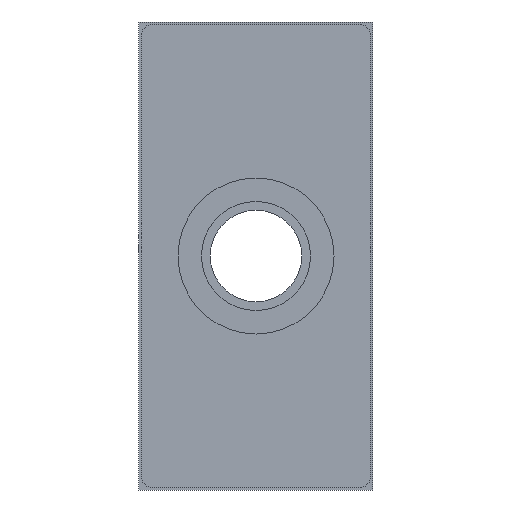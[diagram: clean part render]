
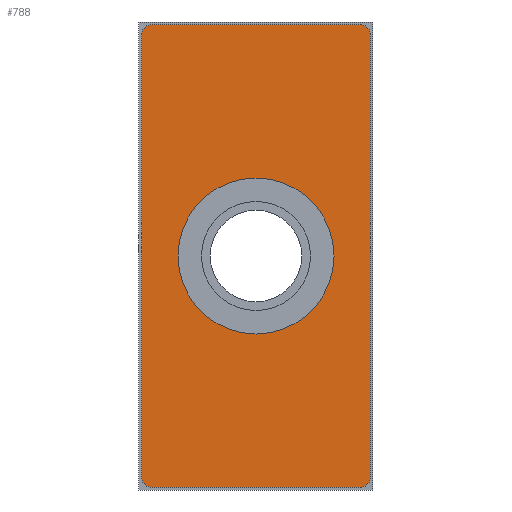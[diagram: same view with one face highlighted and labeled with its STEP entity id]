
A CAD part, front view. The second image highlights one B-rep face of the part: STEP entity #788.
In plain terms, the highlighted planar face has unit normal (0, -1, 0).
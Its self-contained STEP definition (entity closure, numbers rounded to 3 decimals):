
#587=CARTESIAN_POINT('',(0.,0.,0.));
#588=DIRECTION('',(0.,1.,0.));
#589=DIRECTION('',(1.,0.,0.));
#590=AXIS2_PLACEMENT_3D('',#587,#588,#589);
#592=CARTESIAN_POINT('',(0.,0.,0.));
#593=DIRECTION('',(0.,1.,0.));
#594=DIRECTION('',(-1.,0.,0.));
#595=AXIS2_PLACEMENT_3D('',#592,#593,#594);
#597=DIRECTION('',(0.,0.,-1.));
#598=VECTOR('',#597,85.);
#599=CARTESIAN_POINT('',(22.,0.,42.5));
#600=LINE('',#599,#598);
#601=DIRECTION('',(-1.,0.,0.));
#602=VECTOR('',#601,40.);
#603=CARTESIAN_POINT('',(20.,0.,-44.5));
#604=LINE('',#603,#602);
#605=DIRECTION('',(0.,0.,1.));
#606=VECTOR('',#605,85.);
#607=CARTESIAN_POINT('',(-22.,0.,-42.5));
#608=LINE('',#607,#606);
#609=DIRECTION('',(1.,0.,0.));
#610=VECTOR('',#609,40.);
#611=CARTESIAN_POINT('',(-20.,0.,44.5));
#612=LINE('',#611,#610);
#660=CARTESIAN_POINT('',(20.,0.,42.5));
#661=DIRECTION('',(0.,-1.,0.));
#662=DIRECTION('',(1.,0.,0.));
#663=AXIS2_PLACEMENT_3D('',#660,#661,#662);
#678=CARTESIAN_POINT('',(-20.,0.,42.5));
#679=DIRECTION('',(0.,-1.,0.));
#680=DIRECTION('',(0.,0.,1.));
#681=AXIS2_PLACEMENT_3D('',#678,#679,#680);
#696=CARTESIAN_POINT('',(-20.,0.,-42.5));
#697=DIRECTION('',(0.,-1.,0.));
#698=DIRECTION('',(-1.,0.,0.));
#699=AXIS2_PLACEMENT_3D('',#696,#697,#698);
#714=CARTESIAN_POINT('',(20.,0.,-42.5));
#715=DIRECTION('',(0.,-1.,0.));
#716=DIRECTION('',(0.,0.,-1.));
#717=AXIS2_PLACEMENT_3D('',#714,#715,#716);
#719=CARTESIAN_POINT('',(15.,0.,0.));
#720=CARTESIAN_POINT('',(-15.,0.,0.));
#721=VERTEX_POINT('',#719);
#722=VERTEX_POINT('',#720);
#728=CARTESIAN_POINT('',(20.,0.,44.5));
#730=VERTEX_POINT('',#728);
#733=CARTESIAN_POINT('',(22.,0.,42.5));
#734=VERTEX_POINT('',#733);
#736=CARTESIAN_POINT('',(-22.,0.,42.5));
#738=VERTEX_POINT('',#736);
#741=CARTESIAN_POINT('',(-20.,0.,44.5));
#742=VERTEX_POINT('',#741);
#744=CARTESIAN_POINT('',(-20.,0.,-44.5));
#746=VERTEX_POINT('',#744);
#749=CARTESIAN_POINT('',(-22.,0.,-42.5));
#750=VERTEX_POINT('',#749);
#752=CARTESIAN_POINT('',(22.,0.,-42.5));
#754=VERTEX_POINT('',#752);
#757=CARTESIAN_POINT('',(20.,0.,-44.5));
#758=VERTEX_POINT('',#757);
#759=CARTESIAN_POINT('',(0.,0.,0.));
#760=DIRECTION('',(0.,1.,0.));
#761=DIRECTION('',(1.,0.,0.));
#762=AXIS2_PLACEMENT_3D('',#759,#760,#761);
#763=PLANE('',#762);
#765=ORIENTED_EDGE('',*,*,#764,.F.);
#767=ORIENTED_EDGE('',*,*,#766,.T.);
#769=ORIENTED_EDGE('',*,*,#768,.F.);
#771=ORIENTED_EDGE('',*,*,#770,.T.);
#773=ORIENTED_EDGE('',*,*,#772,.F.);
#775=ORIENTED_EDGE('',*,*,#774,.T.);
#777=ORIENTED_EDGE('',*,*,#776,.F.);
#779=ORIENTED_EDGE('',*,*,#778,.T.);
#780=EDGE_LOOP('',(#765,#767,#769,#771,#773,#775,#777,#779));
#781=FACE_OUTER_BOUND('',#780,.F.);
#783=ORIENTED_EDGE('',*,*,#782,.F.);
#785=ORIENTED_EDGE('',*,*,#784,.F.);
#786=EDGE_LOOP('',(#783,#785));
#787=FACE_BOUND('',#786,.F.);
#788=ADVANCED_FACE('',(#781,#787),#763,.F.);
#591=CIRCLE('',#590,15.);
#596=CIRCLE('',#595,15.);
#664=CIRCLE('',#663,2.);
#682=CIRCLE('',#681,2.);
#700=CIRCLE('',#699,2.);
#718=CIRCLE('',#717,2.);
#764=EDGE_CURVE('',#734,#730,#664,.T.);
#766=EDGE_CURVE('',#734,#754,#600,.T.);
#768=EDGE_CURVE('',#758,#754,#718,.T.);
#770=EDGE_CURVE('',#758,#746,#604,.T.);
#772=EDGE_CURVE('',#750,#746,#700,.T.);
#774=EDGE_CURVE('',#750,#738,#608,.T.);
#776=EDGE_CURVE('',#742,#738,#682,.T.);
#778=EDGE_CURVE('',#742,#730,#612,.T.);
#782=EDGE_CURVE('',#721,#722,#591,.T.);
#784=EDGE_CURVE('',#722,#721,#596,.T.);
